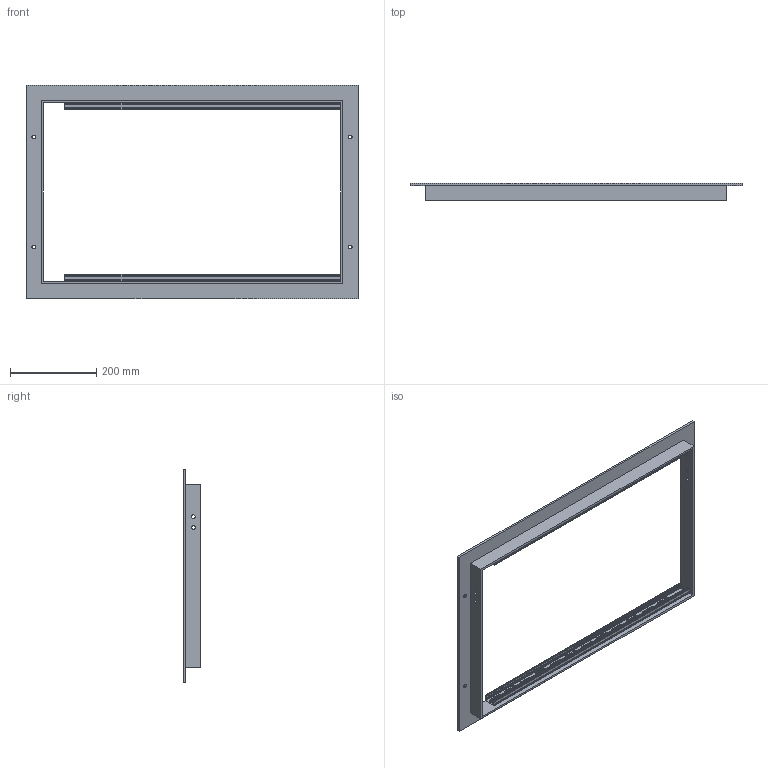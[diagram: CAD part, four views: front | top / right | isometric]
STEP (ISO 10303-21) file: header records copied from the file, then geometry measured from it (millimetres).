
FILE_DESCRIPTION (( 'STEP AP214' ), '1' );
FILE_NAME ('KP_DCF800P.step', '2013-05-14T14:17:34', ( 'robinj' ), ( 'Microsoft' ), 'SwSTEP 2.0', 'SolidWorks 2013', '' );
FILE_SCHEMA (( 'AUTOMOTIVE_DESIGN' ));
Length unit declared in the file: millimetre
Products named in the file (1): KP_DCF800P
Bounding box: 770 x 40 x 495 mm (x, y, z)
Volume: 965827.5 mm3; surface area: 576910.3 mm2
Topology: 27 solids, 27 shells, 649 faces, 1716 edges, 1144 vertices
Faces by surface type: plane 337, cylinder 264, bspline 48
Entity records: 32064 total; most frequent: CARTESIAN_POINT 8199, ORIENTED_EDGE 3432, DIRECTION 3349, EDGE_CURVE 1716, VERTEX_POINT 1144, AXIS2_PLACEMENT_3D 1130, VECTOR 1089, LINE 1089
